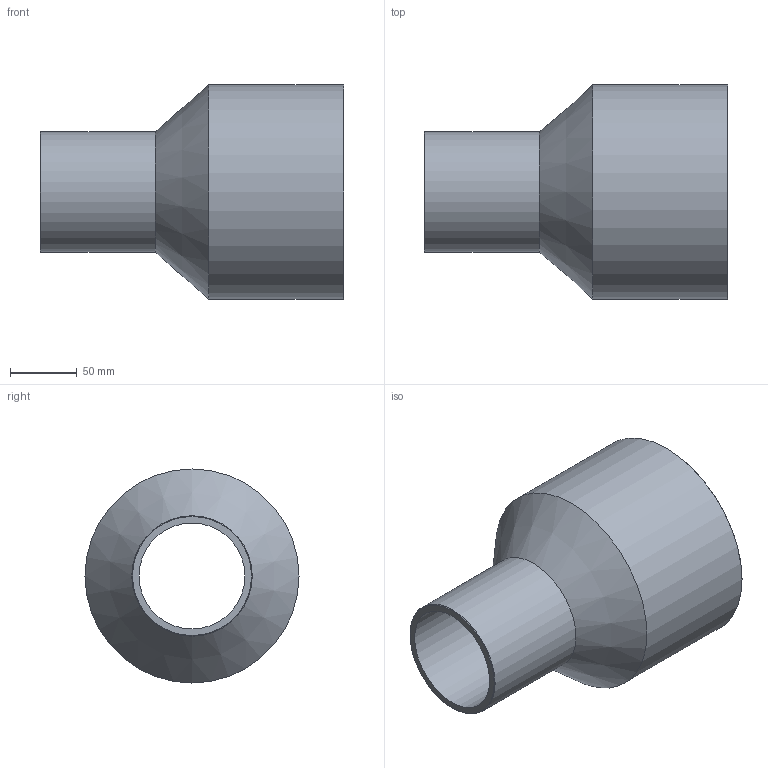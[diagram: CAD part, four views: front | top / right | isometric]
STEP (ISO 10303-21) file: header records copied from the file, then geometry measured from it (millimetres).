
FILE_DESCRIPTION(/* description */ ('Unknown'),/* implementation_level */ '2;1');
FILE_NAME(/* name */ 'RP160090B',/* time_stamp */ '2021-09-17T11:16:29+02:00',/* author */ ('Unknown'),/* organization */ ('Unknown'),/* preprocessor_version */ 'ST-DEVELOPER v16.7',/* originating_system */ 'Solid Edge',/* authorisation */ 'Unknown');
FILE_SCHEMA (('AUTOMOTIVE_DESIGN {1 0 10303 214 3 1 1}'));
Length unit declared in the file: millimetre
Products named in the file (1): RP160090B
Bounding box: 227 x 160 x 160 mm (x, y, z)
Volume: 791905.5 mm3; surface area: 183357.6 mm2
Topology: 1 solids, 1 shells, 10 faces, 19 edges, 11 vertices
Faces by surface type: cylinder 4, cone 4, plane 2
Full cylindrical faces by diameter (mm): 79.2 x1, 90 x1, 141 x1, 160 x1
Entity records: 238 total; most frequent: DIRECTION 42, CARTESIAN_POINT 31, AXIS2_PLACEMENT_3D 21, ORIENTED_EDGE 20, EDGE_LOOP 20, FACE_BOUND 20, EDGE_CURVE 10, VERTEX_POINT 10
